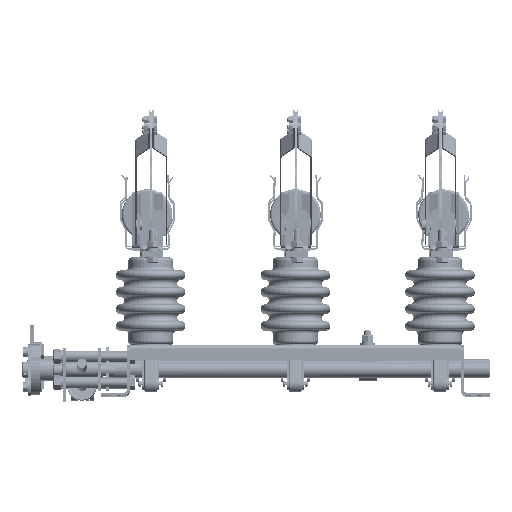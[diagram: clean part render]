
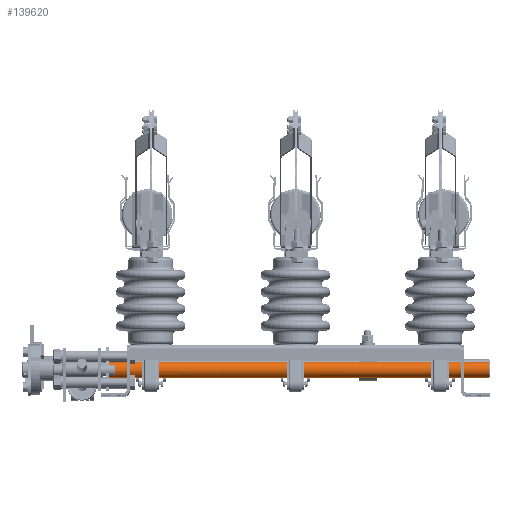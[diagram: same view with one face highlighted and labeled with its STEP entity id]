
A CAD part, top view. The second image highlights one B-rep face of the part: STEP entity #139620.
In plain terms, the highlighted cylindrical face has radius 11 mm (diameter 22 mm), a full revolution.
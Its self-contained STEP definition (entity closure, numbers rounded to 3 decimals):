
#1652 = DIRECTION ( 'NONE',  ( 0., -0.576, 0.817 ) ) ;
#4970 = CARTESIAN_POINT ( 'NONE',  ( 267.622, 29.668, 305.01 ) ) ;
#6319 = CARTESIAN_POINT ( 'NONE',  ( -261.378, 36.004, 296.018 ) ) ;
#15956 = CARTESIAN_POINT ( 'NONE',  ( 267.622, 36.004, 296.018 ) ) ;
#21023 = CIRCLE ( 'NONE', #86511, 11. ) ;
#23420 = DIRECTION ( 'NONE',  ( 0., 0.576, -0.817 ) ) ;
#24707 = DIRECTION ( 'NONE',  ( -1., 0., 0. ) ) ;
#31022 = EDGE_CURVE ( 'NONE', #177261, #35140, #109172, .T. ) ;
#33028 = DIRECTION ( 'NONE',  ( 0., 0.576, -0.817 ) ) ;
#35140 = VERTEX_POINT ( 'NONE', #4970 ) ;
#38850 = CYLINDRICAL_SURFACE ( 'NONE', #112487, 11. ) ;
#61342 = AXIS2_PLACEMENT_3D ( 'NONE', #15956, #134672, #33028 ) ;
#71285 = AXIS2_PLACEMENT_3D ( 'NONE', #126327, #24707, #143423 ) ;
#76872 = EDGE_LOOP ( 'NONE', ( #184342 ) ) ;
#86511 = AXIS2_PLACEMENT_3D ( 'NONE', #204935, #103301, #1652 ) ;
#89309 = FACE_OUTER_BOUND ( 'NONE', #76872, .T. ) ;
#93540 = CIRCLE ( 'NONE', #71285, 11. ) ;
#99353 = CARTESIAN_POINT ( 'NONE',  ( 267.622, 42.34, 287.026 ) ) ;
#103301 = DIRECTION ( 'NONE',  ( 1., 0., 0. ) ) ;
#109172 = CIRCLE ( 'NONE', #61342, 11. ) ;
#112487 = AXIS2_PLACEMENT_3D ( 'NONE', #6319, #209577, #23420 ) ;
#126327 = CARTESIAN_POINT ( 'NONE',  ( -258.378, 36.004, 296.018 ) ) ;
#134672 = DIRECTION ( 'NONE',  ( 1., 0., 0. ) ) ;
#139620 = ADVANCED_FACE ( 'NONE', ( #89309, #219363 ), #38850, .T. ) ;
#143423 = DIRECTION ( 'NONE',  ( 0., 0., 1. ) ) ;
#144999 = VERTEX_POINT ( 'NONE', #179815 ) ;
#150681 = ORIENTED_EDGE ( 'NONE', *, *, #169297, .F. ) ;
#157948 = EDGE_CURVE ( 'NONE', #144999, #144999, #93540, .T. ) ;
#169297 = EDGE_CURVE ( 'NONE', #35140, #177261, #21023, .T. ) ;
#177261 = VERTEX_POINT ( 'NONE', #99353 ) ;
#179815 = CARTESIAN_POINT ( 'NONE',  ( -258.378, 36.004, 307.018 ) ) ;
#183257 = ORIENTED_EDGE ( 'NONE', *, *, #31022, .F. ) ;
#184342 = ORIENTED_EDGE ( 'NONE', *, *, #157948, .F. ) ;
#202858 = EDGE_LOOP ( 'NONE', ( #150681, #183257 ) ) ;
#204935 = CARTESIAN_POINT ( 'NONE',  ( 267.622, 36.004, 296.018 ) ) ;
#209577 = DIRECTION ( 'NONE',  ( 1., 0., 0. ) ) ;
#219363 = FACE_OUTER_BOUND ( 'NONE', #202858, .T. ) ;
